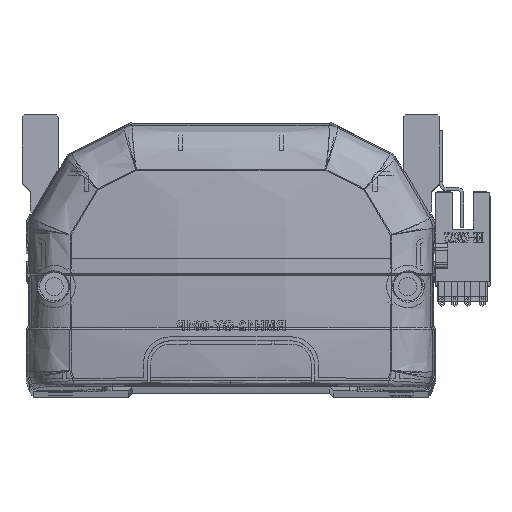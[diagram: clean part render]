
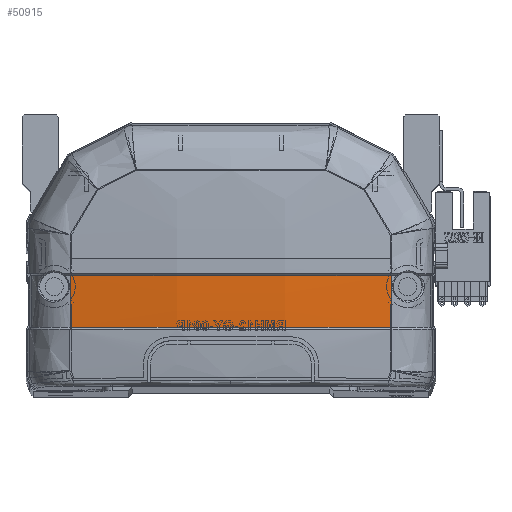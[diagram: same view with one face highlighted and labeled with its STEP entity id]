
A CAD part, top view. The second image highlights one B-rep face of the part: STEP entity #50915.
In plain terms, the highlighted free-form (B-spline) face has degree [3, 3] with [4, 4] control points.
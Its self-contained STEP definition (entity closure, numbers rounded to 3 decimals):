
#743 = EDGE_CURVE ( 'NONE', #30656, #5563, #3702, .T. ) ;
#1197 = CARTESIAN_POINT ( 'NONE',  ( -39.963, 28.706, -6.372 ) ) ;
#3662 = ORIENTED_EDGE ( 'NONE', *, *, #743, .F. ) ;
#3702 = B_SPLINE_CURVE_WITH_KNOTS ( 'NONE', 3,
 ( #1197, #24281, #10751, #15318, #47158, #5562 ),
 .UNSPECIFIED., .F., .F.,
 ( 4, 2, 4 ),
 ( 0., 0.5, 1. ),
 .UNSPECIFIED. ) ;
#3719 = CARTESIAN_POINT ( 'NONE',  ( 39.985, 15.83, -5.879 ) ) ;
#4554 = CARTESIAN_POINT ( 'NONE',  ( 40.461, 20.111, -6.066 ) ) ;
#5562 = CARTESIAN_POINT ( 'NONE',  ( 39.963, 28.706, -6.372 ) ) ;
#5563 = VERTEX_POINT ( 'NONE', #56581 ) ;
#5658 = B_SPLINE_CURVE_WITH_KNOTS ( 'NONE', 3,
 ( #3719, #16835, #7675, #21618, #49282, #57675, #53303, #39755, #31150, #58282 ),
 .UNSPECIFIED., .F., .F.,
 ( 4, 2, 2, 2, 4 ),
 ( 0., 0.04, 0.06, 0.07, 0.08 ),
 .UNSPECIFIED. ) ;
#7540 = CARTESIAN_POINT ( 'NONE',  ( 39.985, 15.83, -5.879 ) ) ;
#7675 = CARTESIAN_POINT ( 'NONE',  ( 13.38, 15.83, -8.984 ) ) ;
#8527 = CARTESIAN_POINT ( 'NONE',  ( 13.598, 19.918, -10.302 ) ) ;
#8833 = CARTESIAN_POINT ( 'NONE',  ( -39.963, 28.706, -6.372 ) ) ;
#10751 = CARTESIAN_POINT ( 'NONE',  ( -13.373, 28.707, -9.468 ) ) ;
#10878 = VERTEX_POINT ( 'NONE', #22534 ) ;
#13571 = VERTEX_POINT ( 'NONE', #55997 ) ;
#15318 = CARTESIAN_POINT ( 'NONE',  ( 13.375, 28.707, -9.468 ) ) ;
#16835 = CARTESIAN_POINT ( 'NONE',  ( 26.761, 15.83, -7.945 ) ) ;
#21484 = CARTESIAN_POINT ( 'NONE',  ( 39.963, 28.706, -6.372 ) ) ;
#21618 = CARTESIAN_POINT ( 'NONE',  ( -6.692, 15.83, -8.984 ) ) ;
#22000 = CARTESIAN_POINT ( 'NONE',  ( -39.985, 15.83, -5.879 ) ) ;
#22534 = CARTESIAN_POINT ( 'NONE',  ( -39.985, 15.83, -5.879 ) ) ;
#22884 = CARTESIAN_POINT ( 'NONE',  ( 40.461, 24.47, -6.231 ) ) ;
#24281 = CARTESIAN_POINT ( 'NONE',  ( -26.748, 28.706, -8.432 ) ) ;
#26659 = CARTESIAN_POINT ( 'NONE',  ( 13.598, 28.769, -10.535 ) ) ;
#26801 = EDGE_CURVE ( 'NONE', #13571, #10878, #5658, .T. ) ;
#28590 = ORIENTED_EDGE ( 'NONE', *, *, #26801, .F. ) ;
#29690 = FACE_OUTER_BOUND ( 'NONE', #42923, .T. ) ;
#30656 = VERTEX_POINT ( 'NONE', #31459 ) ;
#31150 = CARTESIAN_POINT ( 'NONE',  ( -36.679, 15.83, -6.395 ) ) ;
#31412 = CARTESIAN_POINT ( 'NONE',  ( 13.598, 24.342, -10.47 ) ) ;
#31459 = CARTESIAN_POINT ( 'NONE',  ( -39.963, 28.706, -6.372 ) ) ;
#31607 = CARTESIAN_POINT ( 'NONE',  ( 13.598, 15.499, -10.032 ) ) ;
#31802 = CARTESIAN_POINT ( 'NONE',  ( 40.461, 15.757, -5.8 ) ) ;
#31988 = CARTESIAN_POINT ( 'NONE',  ( -40.461, 28.832, -6.296 ) ) ;
#32885 = EDGE_CURVE ( 'NONE', #13571, #5563, #46341, .T. ) ;
#34515 = EDGE_CURVE ( 'NONE', #30656, #10878, #43686, .T. ) ;
#35781 = CARTESIAN_POINT ( 'NONE',  ( 40.461, 28.832, -6.296 ) ) ;
#35988 = CARTESIAN_POINT ( 'NONE',  ( -13.598, 15.499, -10.032 ) ) ;
#36189 = CARTESIAN_POINT ( 'NONE',  ( -40.461, 15.757, -5.8 ) ) ;
#36378 = CARTESIAN_POINT ( 'NONE',  ( -13.598, 24.342, -10.47 ) ) ;
#36791 = ORIENTED_EDGE ( 'NONE', *, *, #34515, .T. ) ;
#39755 = CARTESIAN_POINT ( 'NONE',  ( -33.365, 15.83, -6.848 ) ) ;
#40423 = CARTESIAN_POINT ( 'NONE',  ( -13.598, 19.918, -10.302 ) ) ;
#41005 = CARTESIAN_POINT ( 'NONE',  ( -40.461, 20.111, -6.066 ) ) ;
#42923 = EDGE_LOOP ( 'NONE', ( #49430, #3662, #36791, #28590 ) ) ;
#43686 = B_SPLINE_CURVE_WITH_KNOTS ( 'NONE', 3,
 ( #8833, #45051, #45473, #22000 ),
 .UNSPECIFIED., .F., .F.,
 ( 4, 4 ),
 ( 0., 1. ),
 .UNSPECIFIED. ) ;
#43789 = CARTESIAN_POINT ( 'NONE',  ( 39.966, 24.413, -6.306 ) ) ;
#45051 = CARTESIAN_POINT ( 'NONE',  ( -39.966, 24.412, -6.306 ) ) ;
#45473 = CARTESIAN_POINT ( 'NONE',  ( -39.973, 20.118, -6.142 ) ) ;
#46341 = B_SPLINE_CURVE_WITH_KNOTS ( 'NONE', 3,
 ( #7540, #53377, #43789, #21484 ),
 .UNSPECIFIED., .F., .F.,
 ( 4, 4 ),
 ( 0., 1. ),
 .UNSPECIFIED. ) ;
#47158 = CARTESIAN_POINT ( 'NONE',  ( 26.749, 28.706, -8.432 ) ) ;
#49282 = CARTESIAN_POINT ( 'NONE',  ( -13.384, 15.83, -8.724 ) ) ;
#49430 = ORIENTED_EDGE ( 'NONE', *, *, #32885, .T. ) ;
#50869 =( BOUNDED_SURFACE ( )  B_SPLINE_SURFACE ( 3, 3, ( 
 ( #31802, #4554, #22884, #35781 ),
 ( #31607, #8527, #31412, #26659 ),
 ( #35988, #40423, #36378, #58551 ),
 ( #36189, #41005, #54173, #31988 ) ),
 .UNSPECIFIED., .F., .F., .F. ) 
 B_SPLINE_SURFACE_WITH_KNOTS ( ( 4, 4 ),
 ( 4, 4 ),
 ( 0., 1. ),
 ( 0., 1. ),
 .UNSPECIFIED. ) 
 GEOMETRIC_REPRESENTATION_ITEM ( )  RATIONAL_B_SPLINE_SURFACE ( (
 ( 1., 1., 1., 1.),
 ( 0.992, 0.992, 0.992, 0.992),
 ( 0.992, 0.992, 0.992, 0.992),
 ( 1., 1., 1., 1.) ) ) 
 REPRESENTATION_ITEM ( '' )  SURFACE ( )  );
#50915 = ADVANCED_FACE ( 'NONE', ( #29690 ), #50869, .F. ) ;
#53303 = CARTESIAN_POINT ( 'NONE',  ( -26.721, 15.83, -7.624 ) ) ;
#53377 = CARTESIAN_POINT ( 'NONE',  ( 39.973, 20.12, -6.142 ) ) ;
#54173 = CARTESIAN_POINT ( 'NONE',  ( -40.461, 24.47, -6.231 ) ) ;
#55997 = CARTESIAN_POINT ( 'NONE',  ( 39.985, 15.83, -5.879 ) ) ;
#56581 = CARTESIAN_POINT ( 'NONE',  ( 39.963, 28.706, -6.372 ) ) ;
#57675 = CARTESIAN_POINT ( 'NONE',  ( -23.389, 15.83, -7.947 ) ) ;
#58282 = CARTESIAN_POINT ( 'NONE',  ( -39.985, 15.83, -5.879 ) ) ;
#58551 = CARTESIAN_POINT ( 'NONE',  ( -13.598, 28.769, -10.535 ) ) ;
